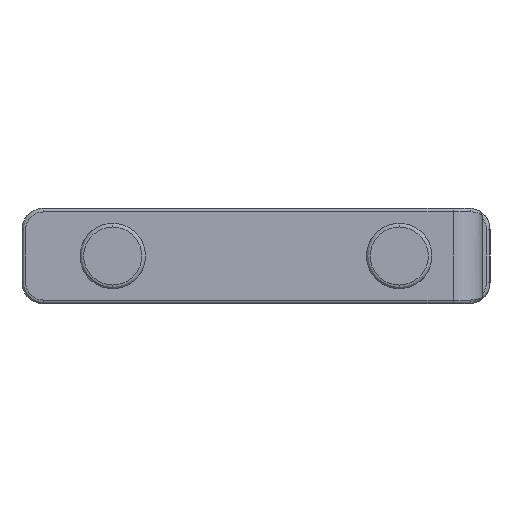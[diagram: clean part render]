
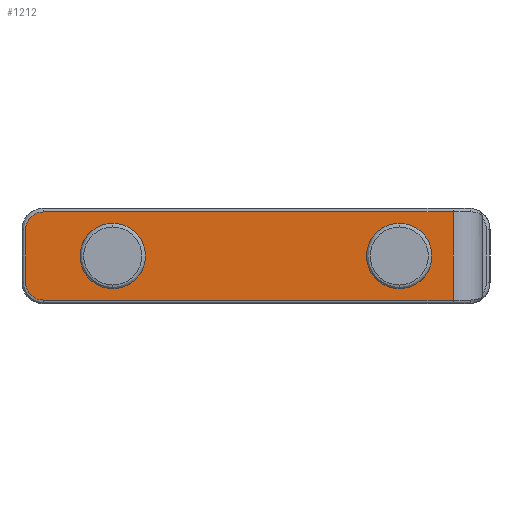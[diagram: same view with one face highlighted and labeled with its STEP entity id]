
A CAD part, left-side view. The second image highlights one B-rep face of the part: STEP entity #1212.
In plain terms, the highlighted planar face has unit normal (-1, 0, 0).
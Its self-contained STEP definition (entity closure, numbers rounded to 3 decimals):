
#56 = VERTEX_POINT ( 'NONE', #1783 ) ;
#57 = VERTEX_POINT ( 'NONE', #1779 ) ;
#58 = VERTEX_POINT ( 'NONE', #1778 ) ;
#59 = VERTEX_POINT ( 'NONE', #1777 ) ;
#63 = EDGE_CURVE ( 'NONE', #56, #57, #1774, .T. ) ;
#64 = ORIENTED_EDGE ( 'NONE', *, *, #63, .T. ) ;
#78 = EDGE_CURVE ( 'NONE', #58, #59, #1811, .T. ) ;
#86 = EDGE_LOOP ( 'NONE', ( #1219, #1208 ) ) ;
#159 = CARTESIAN_POINT ( 'NONE',  ( -508.2, 19.5, 4.45 ) ) ;
#229 = CARTESIAN_POINT ( 'NONE',  ( -508.2, 28.95, -6. ) ) ;
#230 = DIRECTION ( 'NONE',  ( 0., 0., -1. ) ) ;
#231 = DIRECTION ( 'NONE',  ( -1., 0., 0. ) ) ;
#232 = CARTESIAN_POINT ( 'NONE',  ( -508.2, 28.95, -3.6 ) ) ;
#233 = AXIS2_PLACEMENT_3D ( 'NONE', #232, #231, #230 ) ;
#234 = CIRCLE ( 'NONE', #233, 2.4 ) ;
#1208 = ORIENTED_EDGE ( 'NONE', *, *, #1601, .F. ) ;
#1209 = EDGE_LOOP ( 'NONE', ( #1211, #1217, #64, #1229, #1967, #1464 ) ) ;
#1211 = ORIENTED_EDGE ( 'NONE', *, *, #78, .F. ) ;
#1212 = ADVANCED_FACE ( 'NONE', ( #1893, #1892, #1891 ), #1890, .F. ) ;
#1215 = VERTEX_POINT ( 'NONE', #1881 ) ;
#1216 = EDGE_CURVE ( 'NONE', #1602, #1662, #1880, .T. ) ;
#1217 = ORIENTED_EDGE ( 'NONE', *, *, #1218, .T. ) ;
#1218 = EDGE_CURVE ( 'NONE', #58, #56, #1875, .T. ) ;
#1219 = ORIENTED_EDGE ( 'NONE', *, *, #1216, .F. ) ;
#1227 = EDGE_CURVE ( 'NONE', #57, #1215, #1926, .T. ) ;
#1229 = ORIENTED_EDGE ( 'NONE', *, *, #1227, .T. ) ;
#1235 = CIRCLE ( 'NONE', #1241, 4.45 ) ;
#1237 = DIRECTION ( 'NONE',  ( 0., 0., -1. ) ) ;
#1238 = DIRECTION ( 'NONE',  ( -1., 0., 0. ) ) ;
#1240 = CARTESIAN_POINT ( 'NONE',  ( -508.2, -19.5, 0. ) ) ;
#1241 = AXIS2_PLACEMENT_3D ( 'NONE', #1240, #1238, #1237 ) ;
#1397 = VERTEX_POINT ( 'NONE', #2035 ) ;
#1399 = VERTEX_POINT ( 'NONE', #2089 ) ;
#1401 = EDGE_CURVE ( 'NONE', #1399, #1397, #2088, .T. ) ;
#1433 = ORIENTED_EDGE ( 'NONE', *, *, #1434, .F. ) ;
#1434 = EDGE_CURVE ( 'NONE', #1397, #1399, #1235, .T. ) ;
#1435 = ORIENTED_EDGE ( 'NONE', *, *, #1401, .F. ) ;
#1447 = EDGE_LOOP ( 'NONE', ( #1433, #1435 ) ) ;
#1448 = EDGE_CURVE ( 'NONE', #2739, #59, #2234, .T. ) ;
#1464 = ORIENTED_EDGE ( 'NONE', *, *, #1448, .T. ) ;
#1601 = EDGE_CURVE ( 'NONE', #1662, #1602, #2658, .T. ) ;
#1602 = VERTEX_POINT ( 'NONE', #2653 ) ;
#1662 = VERTEX_POINT ( 'NONE', #159 ) ;
#1774 = CIRCLE ( 'NONE', #1833, 2.4 ) ;
#1777 = CARTESIAN_POINT ( 'NONE',  ( -508.2, -26.82, -6. ) ) ;
#1778 = CARTESIAN_POINT ( 'NONE',  ( -508.2, -26.82, 6. ) ) ;
#1779 = CARTESIAN_POINT ( 'NONE',  ( -508.2, 31.35, 3.6 ) ) ;
#1783 = CARTESIAN_POINT ( 'NONE',  ( -508.2, 28.95, 6. ) ) ;
#1808 = DIRECTION ( 'NONE',  ( 0., 0., -1. ) ) ;
#1809 = VECTOR ( 'NONE', #1808, 1000. ) ;
#1810 = CARTESIAN_POINT ( 'NONE',  ( -508.2, -26.82, -7.5 ) ) ;
#1811 = LINE ( 'NONE', #1810, #1809 ) ;
#1830 = DIRECTION ( 'NONE',  ( 0., 0., -1. ) ) ;
#1831 = DIRECTION ( 'NONE',  ( -1., 0., 0. ) ) ;
#1832 = CARTESIAN_POINT ( 'NONE',  ( -508.2, 28.95, 3.6 ) ) ;
#1833 = AXIS2_PLACEMENT_3D ( 'NONE', #1832, #1831, #1830 ) ;
#1872 = DIRECTION ( 'NONE',  ( 0., 1., 0. ) ) ;
#1873 = VECTOR ( 'NONE', #1872, 1000. ) ;
#1874 = CARTESIAN_POINT ( 'NONE',  ( -508.2, 28.95, 6. ) ) ;
#1875 = LINE ( 'NONE', #1874, #1873 ) ;
#1876 = DIRECTION ( 'NONE',  ( 0., 0., -1. ) ) ;
#1877 = DIRECTION ( 'NONE',  ( -1., 0., 0. ) ) ;
#1878 = CARTESIAN_POINT ( 'NONE',  ( -508.2, 19.5, 0. ) ) ;
#1879 = AXIS2_PLACEMENT_3D ( 'NONE', #1878, #1877, #1876 ) ;
#1880 = CIRCLE ( 'NONE', #1879, 4.45 ) ;
#1881 = CARTESIAN_POINT ( 'NONE',  ( -508.2, 31.35, -3.6 ) ) ;
#1886 = DIRECTION ( 'NONE',  ( 0., 0., -1. ) ) ;
#1887 = DIRECTION ( 'NONE',  ( 1., 0., 0. ) ) ;
#1888 = CARTESIAN_POINT ( 'NONE',  ( -508.2, -27.9, -2.9 ) ) ;
#1889 = AXIS2_PLACEMENT_3D ( 'NONE', #1888, #1887, #1886 ) ;
#1890 = PLANE ( 'NONE',  #1889 ) ;
#1891 = FACE_BOUND ( 'NONE', #1447, .T. ) ;
#1892 = FACE_OUTER_BOUND ( 'NONE', #1209, .T. ) ;
#1893 = FACE_BOUND ( 'NONE', #86, .T. ) ;
#1922 = DIRECTION ( 'NONE',  ( 0., 0., -1. ) ) ;
#1923 = VECTOR ( 'NONE', #1922, 1000. ) ;
#1925 = CARTESIAN_POINT ( 'NONE',  ( -508.2, 31.35, -3.6 ) ) ;
#1926 = LINE ( 'NONE', #1925, #1923 ) ;
#1952 = EDGE_CURVE ( 'NONE', #1215, #2739, #234, .T. ) ;
#1967 = ORIENTED_EDGE ( 'NONE', *, *, #1952, .T. ) ;
#2035 = CARTESIAN_POINT ( 'NONE',  ( -508.2, -19.5, -4.45 ) ) ;
#2084 = DIRECTION ( 'NONE',  ( 0., 0., -1. ) ) ;
#2085 = DIRECTION ( 'NONE',  ( -1., 0., 0. ) ) ;
#2086 = CARTESIAN_POINT ( 'NONE',  ( -508.2, -19.5, 0. ) ) ;
#2087 = AXIS2_PLACEMENT_3D ( 'NONE', #2086, #2085, #2084 ) ;
#2088 = CIRCLE ( 'NONE', #2087, 4.45 ) ;
#2089 = CARTESIAN_POINT ( 'NONE',  ( -508.2, -19.5, 4.45 ) ) ;
#2231 = DIRECTION ( 'NONE',  ( 0., -1., 0. ) ) ;
#2232 = VECTOR ( 'NONE', #2231, 1000. ) ;
#2233 = CARTESIAN_POINT ( 'NONE',  ( -508.2, -26.82, -6. ) ) ;
#2234 = LINE ( 'NONE', #2233, #2232 ) ;
#2653 = CARTESIAN_POINT ( 'NONE',  ( -508.2, 19.5, -4.45 ) ) ;
#2654 = DIRECTION ( 'NONE',  ( 0., 0., -1. ) ) ;
#2655 = DIRECTION ( 'NONE',  ( -1., 0., 0. ) ) ;
#2656 = CARTESIAN_POINT ( 'NONE',  ( -508.2, 19.5, 0. ) ) ;
#2657 = AXIS2_PLACEMENT_3D ( 'NONE', #2656, #2655, #2654 ) ;
#2658 = CIRCLE ( 'NONE', #2657, 4.45 ) ;
#2739 = VERTEX_POINT ( 'NONE', #229 ) ;
